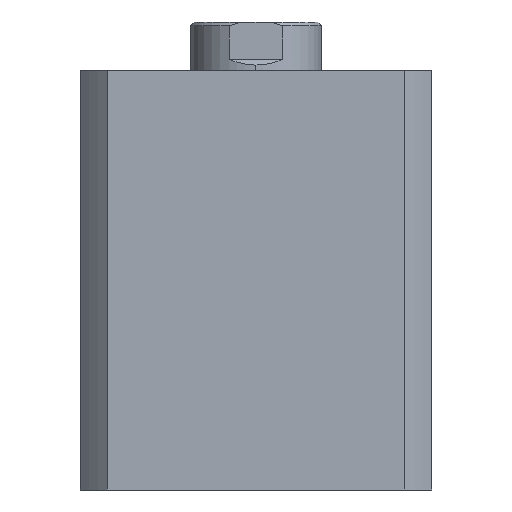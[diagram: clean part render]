
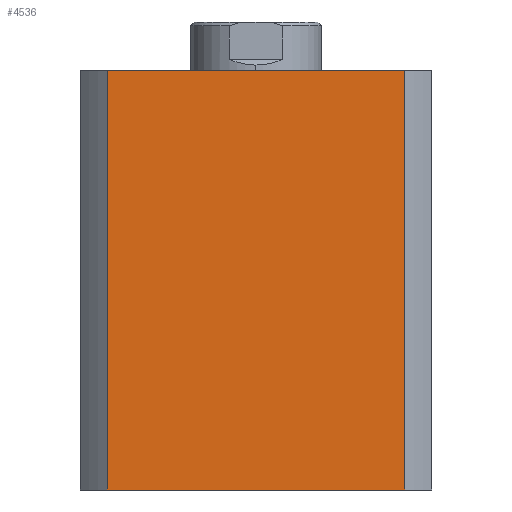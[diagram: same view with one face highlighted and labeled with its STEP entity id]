
A CAD part, left-side view. The second image highlights one B-rep face of the part: STEP entity #4536.
In plain terms, the highlighted planar face has unit normal (-1, 0, 0).
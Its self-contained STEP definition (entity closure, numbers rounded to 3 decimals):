
#383 = CARTESIAN_POINT ( 'NONE',  ( -47., -39.664, 0. ) ) ;
#489 = CARTESIAN_POINT ( 'NONE',  ( -47., 0., 112. ) ) ;
#494 = PLANE ( 'NONE',  #4987 ) ;
#497 = DIRECTION ( 'NONE',  ( 1., 0., 0. ) ) ;
#498 = DIRECTION ( 'NONE',  ( 0., 0., -1. ) ) ;
#992 = CARTESIAN_POINT ( 'NONE',  ( -47., 39.664, 112. ) ) ;
#994 = CARTESIAN_POINT ( 'NONE',  ( -47., 0., 0. ) ) ;
#999 = DIRECTION ( 'NONE',  ( 0., 0., -1. ) ) ;
#1000 = DIRECTION ( 'NONE',  ( 0., -1., 0. ) ) ;
#1001 = CARTESIAN_POINT ( 'NONE',  ( -47., -39.664, 112. ) ) ;
#1003 = DIRECTION ( 'NONE',  ( 0., 0., -1. ) ) ;
#1334 = DIRECTION ( 'NONE',  ( 0., -1., 0. ) ) ;
#1339 = CARTESIAN_POINT ( 'NONE',  ( -47., 0., 112. ) ) ;
#2245 = FACE_OUTER_BOUND ( 'NONE', #3089, .T. ) ;
#2614 = LINE ( 'NONE', #1339, #2616 ) ;
#2616 = VECTOR ( 'NONE', #1334, 1000. ) ;
#2654 = LINE ( 'NONE', #994, #2660 ) ;
#2656 = LINE ( 'NONE', #992, #2658 ) ;
#2658 = VECTOR ( 'NONE', #999, 1000. ) ;
#2659 = LINE ( 'NONE', #1001, #2662 ) ;
#2660 = VECTOR ( 'NONE', #1000, 1000. ) ;
#2662 = VECTOR ( 'NONE', #1003, 1000. ) ;
#2861 = ORIENTED_EDGE ( 'NONE', *, *, #4066, .F. ) ;
#2862 = ORIENTED_EDGE ( 'NONE', *, *, #4065, .T. ) ;
#2956 = VERTEX_POINT ( 'NONE', #3331 ) ;
#2975 = VERTEX_POINT ( 'NONE', #3346 ) ;
#2976 = VERTEX_POINT ( 'NONE', #3347 ) ;
#3089 = EDGE_LOOP ( 'NONE', ( #2862, #2861, #3682, #3680 ) ) ;
#3153 = VERTEX_POINT ( 'NONE', #383 ) ;
#3331 = CARTESIAN_POINT ( 'NONE',  ( -47., 39.664, 0. ) ) ;
#3346 = CARTESIAN_POINT ( 'NONE',  ( -47., -39.664, 112. ) ) ;
#3347 = CARTESIAN_POINT ( 'NONE',  ( -47., 39.664, 112. ) ) ;
#3680 = ORIENTED_EDGE ( 'NONE', *, *, #4064, .T. ) ;
#3682 = ORIENTED_EDGE ( 'NONE', *, *, #4031, .F. ) ;
#4031 = EDGE_CURVE ( 'NONE', #2976, #2975, #2614, .T. ) ;
#4064 = EDGE_CURVE ( 'NONE', #2976, #2956, #2656, .T. ) ;
#4065 = EDGE_CURVE ( 'NONE', #2956, #3153, #2654, .T. ) ;
#4066 = EDGE_CURVE ( 'NONE', #2975, #3153, #2659, .T. ) ;
#4536 = ADVANCED_FACE ( 'NONE', ( #2245 ), #494, .F. ) ;
#4987 = AXIS2_PLACEMENT_3D ( 'NONE', #489, #497, #498 ) ;
